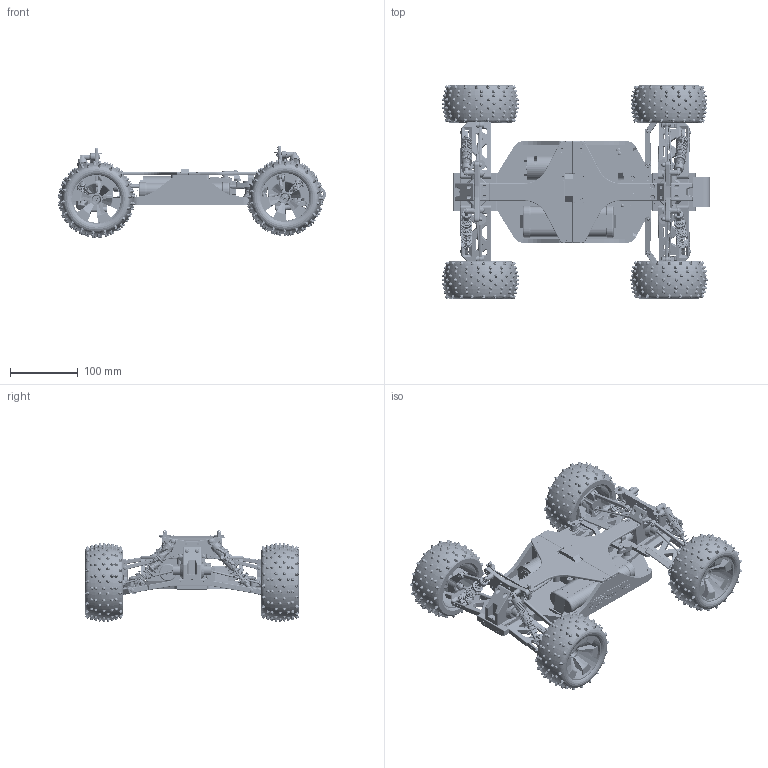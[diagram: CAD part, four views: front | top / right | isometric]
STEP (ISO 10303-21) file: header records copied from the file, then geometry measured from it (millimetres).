
FILE_DESCRIPTION(('STEP AP214'),'1');
FILE_NAME('OpenRC Truggy Assembly.stp','2014-07-31T23:50:58',(' '),(' '),'Spatial InterOp 3D',' ',' ');
FILE_SCHEMA(('automotive_design'));
Length unit declared in the file: millimetre
Products named in the file (161): M4 Nut; HSC_M3X14; Simple Body Holder; OpenRC Truggy Rim; Rim; CS__M3X8; Battery Holder Assembly; Adhesive tape ; Velcro; Battery; Battery Holder; HSC_M3X10; Servo Arm; Servoholder Assy; Servo Holder for BMS-620MG Servo; Servo; Servo Pin; Wheel Hex Hub; Pin 2x10; Driveshaft Assembly; Drive Shaft Coupling; Drive Shaft; CVD Driveshaft 118mm; Drive Axle; Top Deck Rear; Top Deck Front; Steering Pin; Steering v2 Assembly; CS_M3X10; Bearing 6x12x4 ; Stabilizer; 5mm Ball Joint; Steering Plate; Servo Saver Part 1; Servo Saver Part 2; Pivot Shaft; Right Shield Assy w Logo; Left Shield Assy w Logo; Central Drive Shaft Assy; Central Drive Shaft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
Assembly tree (306 placements, depth 6):
  (unnamed)
    M4 Nut  x4
    HSC_M3X14  x4
    Simple Body Holder  x2
    OpenRC Truggy Rim  x4
      Rim
      Rim
    CS__M3X8  x42
    Battery Holder Assembly
      Adhesive tape 
      Velcro
      Battery
      Battery Holder
    HSC_M3X10
    Servo Arm
    Servoholder Assy
      HSC_M3X10  x2
      Servo Holder for BMS-620MG Servo
      Servo
        Servo Pin
        Servo
        Servo
        Servo
        Servo
        Servo
        Servo
    Wheel Hex Hub  x4
    Pin 2x10  x4
    CVD Driveshaft 118mm  x2
      Driveshaft Assembly
        Pin 2x10  x2
        Drive Shaft Coupling
        Drive Shaft
      Drive Axle
    Top Deck Rear
    Top Deck Front
    Steering Pin  x2
    Steering v2 Assembly
      CS_M3X10  x2
      CS__M3X8  x2
      Bearing 6x12x4   x4
      Stabilizer
      5mm Ball Joint  x3
      Steering Plate
      Servo Saver Part 1
      Servo Saver Part 2
      Pivot Shaft  x2
    Right Shield Assy w Logo
      Right Shield Assy w Logo
      Right Shield Assy w Logo
    Left Shield Assy w Logo
      Left Shield Assy w Logo
      Left Shield Assy w Logo
    Central Drive Shaft Assy  x2
      Pin 2x10
      Central Drive Shaft
    Bumper
    #0  x4
    Center Diff Assy
      CS_M3X10  x4
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Bounding box: 395.49 x 316.28 x 135.76 mm (x, y, z)
Volume: 1116054.7 mm3; surface area: 921934.9 mm2
Topology: 380 solids, 392 shells, 25644 faces, 62738 edges, 38709 vertices
Faces by surface type: plane 8678, cone 5287, cylinder 4533, bspline 3229, torus 2709, offset 648, sphere 358, extrusion 170, revolution 32
Full cylindrical faces by diameter (mm): 1 x6, 1.5 x2, 2 x55, 2.1 x10, 2.2 x2, 2.5 x51, 2.7 x99, 2.8 x24, 2.9 x6, 3 x1940, 3.1 x4, 3.2 x13, 3.242 x12, 3.3 x53, 3.4 x2, 3.5 x56, 4 x16, 4.023 x4, 4.2 x4, 4.3 x4, 4.8 x4, 5 x24, 5.4 x4, 5.5 x5, 5.7 x33, 5.95 x4, 6 x93, 6.023 x4, 6.1 x4, 6.111 x16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
Entity records: 439377 total; most frequent: CARTESIAN_POINT 137122, ORIENTED_EDGE 46542, DIRECTION 42273, EDGE_CURVE 23272, VECTOR 16314, LINE 16144, VERTEX_POINT 15860, AXIS2_PLACEMENT_3D 12877
